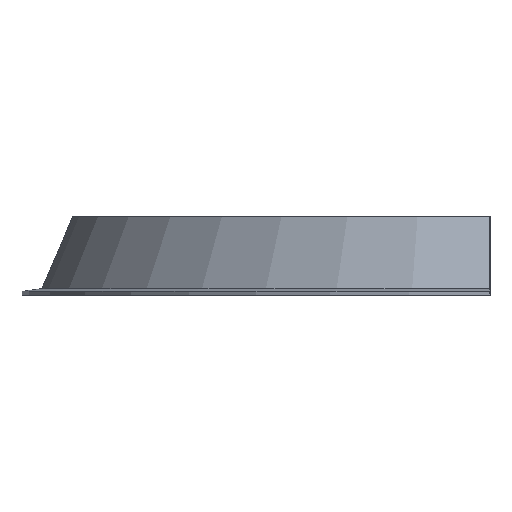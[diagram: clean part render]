
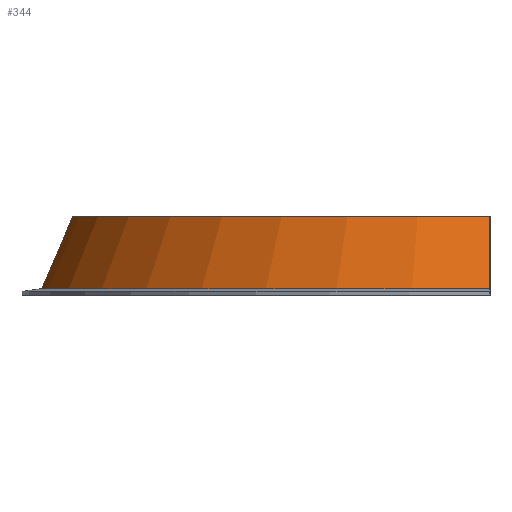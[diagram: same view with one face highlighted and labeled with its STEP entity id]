
A CAD part, left-side view. The second image highlights one B-rep face of the part: STEP entity #344.
In plain terms, the highlighted conical face has half-angle 23.227 degrees and reference radius 342.854 mm.
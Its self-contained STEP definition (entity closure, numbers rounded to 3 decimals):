
#73 = PLANE('',#74);
#74 = AXIS2_PLACEMENT_3D('',#75,#76,#77);
#75 = CARTESIAN_POINT('',(-334.218,0.,
    15.548));
#76 = DIRECTION('',(0.,1.,-0.));
#77 = DIRECTION('',(-0.,0.,-1.));
#128 = PLANE('',#129);
#129 = AXIS2_PLACEMENT_3D('',#130,#131,#132);
#130 = CARTESIAN_POINT('',(334.218,0.,15.548));
#131 = DIRECTION('',(-0.,-1.,-0.));
#132 = DIRECTION('',(0.,0.,-1.));
#168 = VERTEX_POINT('',#169);
#169 = CARTESIAN_POINT('',(-342.854,0.,-5.));
#183 = CONICAL_SURFACE('',#184,358.,1.44);
#184 = AXIS2_PLACEMENT_3D('',#185,#186,#187);
#185 = CARTESIAN_POINT('',(0.,0.,-7.));
#186 = DIRECTION('',(-0.,-0.,-1.));
#187 = DIRECTION('',(1.,0.,-0.));
#195 = EDGE_CURVE('',#168,#196,#198,.T.);
#196 = VERTEX_POINT('',#197);
#197 = CARTESIAN_POINT('',(-319.25,0.,50.));
#198 = SURFACE_CURVE('',#199,(#203,#210),.PCURVE_S1.);
#199 = LINE('',#200,#201);
#200 = CARTESIAN_POINT('',(-342.854,0.,-5.));
#201 = VECTOR('',#202,1.);
#202 = DIRECTION('',(0.394,0.,0.919)
  );
#203 = PCURVE('',#73,#204);
#204 = DEFINITIONAL_REPRESENTATION('',(#205),#209);
#205 = LINE('',#206,#207);
#206 = CARTESIAN_POINT('',(20.548,8.636));
#207 = VECTOR('',#208,1.);
#208 = DIRECTION('',(-0.919,-0.394));
#209 = ( GEOMETRIC_REPRESENTATION_CONTEXT(2) 
PARAMETRIC_REPRESENTATION_CONTEXT() REPRESENTATION_CONTEXT('2D SPACE',''
  ) );
#210 = PCURVE('',#211,#216);
#211 = CONICAL_SURFACE('',#212,342.854,0.405);
#212 = AXIS2_PLACEMENT_3D('',#213,#214,#215);
#213 = CARTESIAN_POINT('',(0.,0.,-5.));
#214 = DIRECTION('',(-0.,-0.,-1.));
#215 = DIRECTION('',(1.,0.,-0.));
#216 = DEFINITIONAL_REPRESENTATION('',(#217),#221);
#217 = LINE('',#218,#219);
#218 = CARTESIAN_POINT('',(-3.142,-0.));
#219 = VECTOR('',#220,1.);
#220 = DIRECTION('',(-0.,-1.));
#221 = ( GEOMETRIC_REPRESENTATION_CONTEXT(2) 
PARAMETRIC_REPRESENTATION_CONTEXT() REPRESENTATION_CONTEXT('2D SPACE',''
  ) );
#239 = PLANE('',#240);
#240 = AXIS2_PLACEMENT_3D('',#241,#242,#243);
#241 = CARTESIAN_POINT('',(0.,0.,50.));
#242 = DIRECTION('',(0.,0.,1.));
#243 = DIRECTION('',(1.,0.,-0.));
#275 = EDGE_CURVE('',#276,#196,#278,.T.);
#276 = VERTEX_POINT('',#277);
#277 = CARTESIAN_POINT('',(319.25,0.,50.));
#278 = SURFACE_CURVE('',#279,(#284,#291),.PCURVE_S1.);
#279 = CIRCLE('',#280,319.25);
#280 = AXIS2_PLACEMENT_3D('',#281,#282,#283);
#281 = CARTESIAN_POINT('',(0.,0.,50.));
#282 = DIRECTION('',(0.,0.,1.));
#283 = DIRECTION('',(1.,0.,-0.));
#284 = PCURVE('',#239,#285);
#285 = DEFINITIONAL_REPRESENTATION('',(#286),#290);
#286 = CIRCLE('',#287,319.25);
#287 = AXIS2_PLACEMENT_2D('',#288,#289);
#288 = CARTESIAN_POINT('',(0.,0.));
#289 = DIRECTION('',(1.,0.));
#290 = ( GEOMETRIC_REPRESENTATION_CONTEXT(2) 
PARAMETRIC_REPRESENTATION_CONTEXT() REPRESENTATION_CONTEXT('2D SPACE',''
  ) );
#291 = PCURVE('',#211,#292);
#292 = DEFINITIONAL_REPRESENTATION('',(#293),#297);
#293 = LINE('',#294,#295);
#294 = CARTESIAN_POINT('',(-0.,-50.947));
#295 = VECTOR('',#296,1.);
#296 = DIRECTION('',(-1.,-0.));
#297 = ( GEOMETRIC_REPRESENTATION_CONTEXT(2) 
PARAMETRIC_REPRESENTATION_CONTEXT() REPRESENTATION_CONTEXT('2D SPACE',''
  ) );
#344 = ADVANCED_FACE('',(#345),#211,.T.);
#345 = FACE_BOUND('',#346,.T.);
#346 = EDGE_LOOP('',(#347,#371,#372,#373));
#347 = ORIENTED_EDGE('',*,*,#348,.T.);
#348 = EDGE_CURVE('',#349,#168,#351,.T.);
#349 = VERTEX_POINT('',#350);
#350 = CARTESIAN_POINT('',(342.854,0.,-5.));
#351 = SURFACE_CURVE('',#352,(#357,#364),.PCURVE_S1.);
#352 = CIRCLE('',#353,342.854);
#353 = AXIS2_PLACEMENT_3D('',#354,#355,#356);
#354 = CARTESIAN_POINT('',(0.,0.,-5.));
#355 = DIRECTION('',(0.,0.,1.));
#356 = DIRECTION('',(1.,0.,-0.));
#357 = PCURVE('',#211,#358);
#358 = DEFINITIONAL_REPRESENTATION('',(#359),#363);
#359 = LINE('',#360,#361);
#360 = CARTESIAN_POINT('',(-0.,-0.));
#361 = VECTOR('',#362,1.);
#362 = DIRECTION('',(-1.,-0.));
#363 = ( GEOMETRIC_REPRESENTATION_CONTEXT(2) 
PARAMETRIC_REPRESENTATION_CONTEXT() REPRESENTATION_CONTEXT('2D SPACE',''
  ) );
#364 = PCURVE('',#183,#365);
#365 = DEFINITIONAL_REPRESENTATION('',(#366),#370);
#366 = LINE('',#367,#368);
#367 = CARTESIAN_POINT('',(-0.,-2.));
#368 = VECTOR('',#369,1.);
#369 = DIRECTION('',(-1.,-0.));
#370 = ( GEOMETRIC_REPRESENTATION_CONTEXT(2) 
PARAMETRIC_REPRESENTATION_CONTEXT() REPRESENTATION_CONTEXT('2D SPACE',''
  ) );
#371 = ORIENTED_EDGE('',*,*,#195,.T.);
#372 = ORIENTED_EDGE('',*,*,#275,.F.);
#373 = ORIENTED_EDGE('',*,*,#374,.T.);
#374 = EDGE_CURVE('',#276,#349,#375,.T.);
#375 = SURFACE_CURVE('',#376,(#380,#387),.PCURVE_S1.);
#376 = LINE('',#377,#378);
#377 = CARTESIAN_POINT('',(319.25,0.,50.));
#378 = VECTOR('',#379,1.);
#379 = DIRECTION('',(0.394,0.,-0.919));
#380 = PCURVE('',#211,#381);
#381 = DEFINITIONAL_REPRESENTATION('',(#382),#386);
#382 = LINE('',#383,#384);
#383 = CARTESIAN_POINT('',(-0.,-55.));
#384 = VECTOR('',#385,1.);
#385 = DIRECTION('',(0.,1.));
#386 = ( GEOMETRIC_REPRESENTATION_CONTEXT(2) 
PARAMETRIC_REPRESENTATION_CONTEXT() REPRESENTATION_CONTEXT('2D SPACE',''
  ) );
#387 = PCURVE('',#128,#388);
#388 = DEFINITIONAL_REPRESENTATION('',(#389),#393);
#389 = LINE('',#390,#391);
#390 = CARTESIAN_POINT('',(-34.452,-14.968));
#391 = VECTOR('',#392,1.);
#392 = DIRECTION('',(0.919,0.394));
#393 = ( GEOMETRIC_REPRESENTATION_CONTEXT(2) 
PARAMETRIC_REPRESENTATION_CONTEXT() REPRESENTATION_CONTEXT('2D SPACE',''
  ) );
